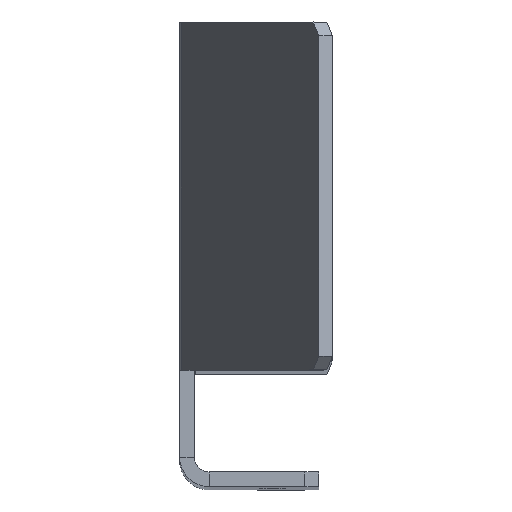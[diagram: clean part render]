
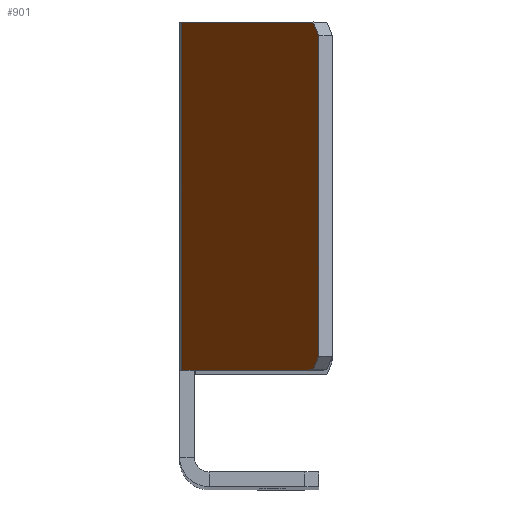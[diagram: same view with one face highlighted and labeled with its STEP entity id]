
A CAD part, top view. The second image highlights one B-rep face of the part: STEP entity #901.
In plain terms, the highlighted planar face has unit normal (-0.919, 0, 0.394).
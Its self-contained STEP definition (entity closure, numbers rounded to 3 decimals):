
#3 = EDGE_CURVE ( 'NONE', #337, #1179, #1281, .T. ) ;
#43 = CARTESIAN_POINT ( 'NONE',  ( 29.409, 26.5, 498.621 ) ) ;
#53 = ORIENTED_EDGE ( 'NONE', *, *, #1195, .F. ) ;
#59 = VECTOR ( 'NONE', #237, 1000. ) ;
#112 = CARTESIAN_POINT ( 'NONE',  ( 0.517, 100., 431.207 ) ) ;
#135 = CARTESIAN_POINT ( 'NONE',  ( 44.181, 61., 533.089 ) ) ;
#185 = CARTESIAN_POINT ( 'NONE',  ( 28.818, 25., 497.243 ) ) ;
#229 = DIRECTION ( 'NONE',  ( 0.279, 0.707, 0.65 ) ) ;
#237 = DIRECTION ( 'NONE',  ( -0.279, 0.707, -0.65 ) ) ;
#242 = LINE ( 'NONE', #135, #59 ) ;
#298 = VECTOR ( 'NONE', #598, 1000. ) ;
#313 = DIRECTION ( 'NONE',  ( 0., 1., 0. ) ) ;
#337 = VERTEX_POINT ( 'NONE', #892 ) ;
#342 = LINE ( 'NONE', #43, #914 ) ;
#366 = ORIENTED_EDGE ( 'NONE', *, *, #1116, .F. ) ;
#373 = CARTESIAN_POINT ( 'NONE',  ( 0.259, 25., 430.604 ) ) ;
#426 = VERTEX_POINT ( 'NONE', #112 ) ;
#430 = CARTESIAN_POINT ( 'NONE',  ( 30., 25., 500. ) ) ;
#440 = FACE_OUTER_BOUND ( 'NONE', #803, .T. ) ;
#519 = CARTESIAN_POINT ( 'NONE',  ( 0.517, 100., 431.207 ) ) ;
#529 = AXIS2_PLACEMENT_3D ( 'NONE', #430, #934, #1051 ) ;
#543 = EDGE_CURVE ( 'NONE', #1179, #603, #342, .T. ) ;
#598 = DIRECTION ( 'NONE',  ( 0., 1., 0. ) ) ;
#603 = VERTEX_POINT ( 'NONE', #1253 ) ;
#611 = LINE ( 'NONE', #1222, #783 ) ;
#623 = EDGE_CURVE ( 'NONE', #1192, #683, #242, .T. ) ;
#678 = DIRECTION ( 'NONE',  ( 0.394, 0., 0.919 ) ) ;
#683 = VERTEX_POINT ( 'NONE', #788 ) ;
#769 = ORIENTED_EDGE ( 'NONE', *, *, #543, .T. ) ;
#783 = VECTOR ( 'NONE', #313, 1000. ) ;
#788 = CARTESIAN_POINT ( 'NONE',  ( 28.818, 100., 497.243 ) ) ;
#803 = EDGE_LOOP ( 'NONE', ( #1117, #769, #978, #970, #366, #53 ) ) ;
#824 = VECTOR ( 'NONE', #678, 1000. ) ;
#892 = CARTESIAN_POINT ( 'NONE',  ( 0.517, 25., 431.207 ) ) ;
#901 = ADVANCED_FACE ( 'NONE', ( #440 ), #928, .T. ) ;
#914 = VECTOR ( 'NONE', #229, 1000. ) ;
#928 = PLANE ( 'NONE',  #529 ) ;
#934 = DIRECTION ( 'NONE',  ( -0.919, 0., 0.394 ) ) ;
#970 = ORIENTED_EDGE ( 'NONE', *, *, #623, .T. ) ;
#978 = ORIENTED_EDGE ( 'NONE', *, *, #1302, .T. ) ;
#983 = DIRECTION ( 'NONE',  ( 0.394, 0., 0.919 ) ) ;
#990 = VECTOR ( 'NONE', #983, 1000. ) ;
#1021 = LINE ( 'NONE', #519, #298 ) ;
#1051 = DIRECTION ( 'NONE',  ( 0.394, 0., 0.919 ) ) ;
#1116 = EDGE_CURVE ( 'NONE', #426, #683, #1282, .T. ) ;
#1117 = ORIENTED_EDGE ( 'NONE', *, *, #3, .T. ) ;
#1179 = VERTEX_POINT ( 'NONE', #185 ) ;
#1192 = VERTEX_POINT ( 'NONE', #1215 ) ;
#1195 = EDGE_CURVE ( 'NONE', #337, #426, #1021, .T. ) ;
#1215 = CARTESIAN_POINT ( 'NONE',  ( 30., 97., 500. ) ) ;
#1222 = CARTESIAN_POINT ( 'NONE',  ( 30., 25., 500. ) ) ;
#1253 = CARTESIAN_POINT ( 'NONE',  ( 30., 28., 500. ) ) ;
#1269 = CARTESIAN_POINT ( 'NONE',  ( 30., 100., 500. ) ) ;
#1281 = LINE ( 'NONE', #373, #990 ) ;
#1282 = LINE ( 'NONE', #1269, #824 ) ;
#1302 = EDGE_CURVE ( 'NONE', #603, #1192, #611, .T. ) ;
